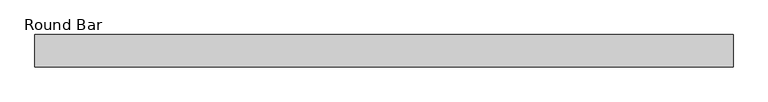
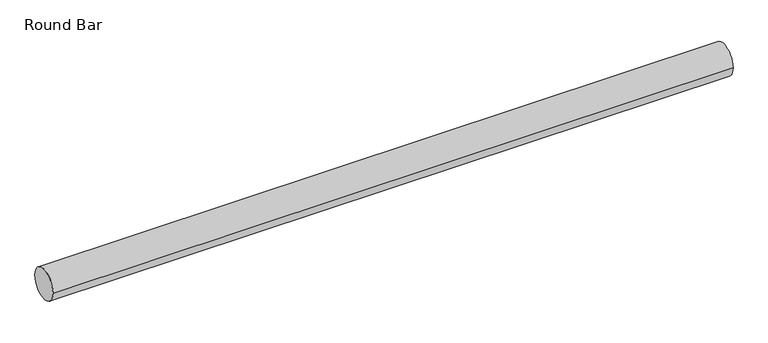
"""IFC4 building model written with IfcOpenShell, lengths in millimetres: beam geometry, Round Bar : Ispuna resetke."""

from ifc_helpers import new_model, si_unit, point, frame, origin, origin_2d, place, context, project, spatial, circle_curve, trimmed, segment, composite_curve, outline, extrude, source, transform, mapped, element, save


def round_bar_eebc96e0(model_context):
    return source(origin(), model_context, "Body", "SweptSolid", [
        extrude(outline(composite_curve([segment(trimmed(circle_curve(origin_2d(), 100.0), [point((-100.0, 0.0))], [point((100.0, 0.0))], False, "CARTESIAN"), True, "CONTINUOUS"), segment(trimmed(circle_curve(origin_2d(), 100.0), [point((100.0, 0.0))], [point((-100.0, 0.0))], False, "CARTESIAN"), True, "CONTINUOUS")], self_intersect=False)), frame((-3108.5, 0.0, 0.0), z_axis=(1.0, 0.0, 0.0), x_axis=(0.0, 1.0, 0.0)), (0.0, 0.0, 1.0), 4326.0),
    ])


if __name__ == "__main__":
    model = new_model("IFC4")
    model_context = context("Model", 3, world=origin())
    ifc_project = project(units=[si_unit("LENGTHUNIT", "METRE", prefix="MILLI")], contexts=[model_context])
    site = spatial("IfcSite", under=ifc_project)
    building = spatial("IfcBuilding", under=site)
    placement = place(None, origin())
    round_bar_shape = round_bar_eebc96e0(model_context)
    element("IfcBeam", 1, ObjectType="Round Bar : Ispuna resetke", at=placement, inside=building, context=model_context, shape_type="MappedRepresentation", body=[
        mapped(round_bar_shape, transform((0.0, 0.0, 0.0), x_axis=(1.0, 0.0, 0.0), y_axis=(0.0, 1.0, 0.0), z_axis=(0.0, 0.0, 1.0))),
    ])
    save(model, "model.ifc")
